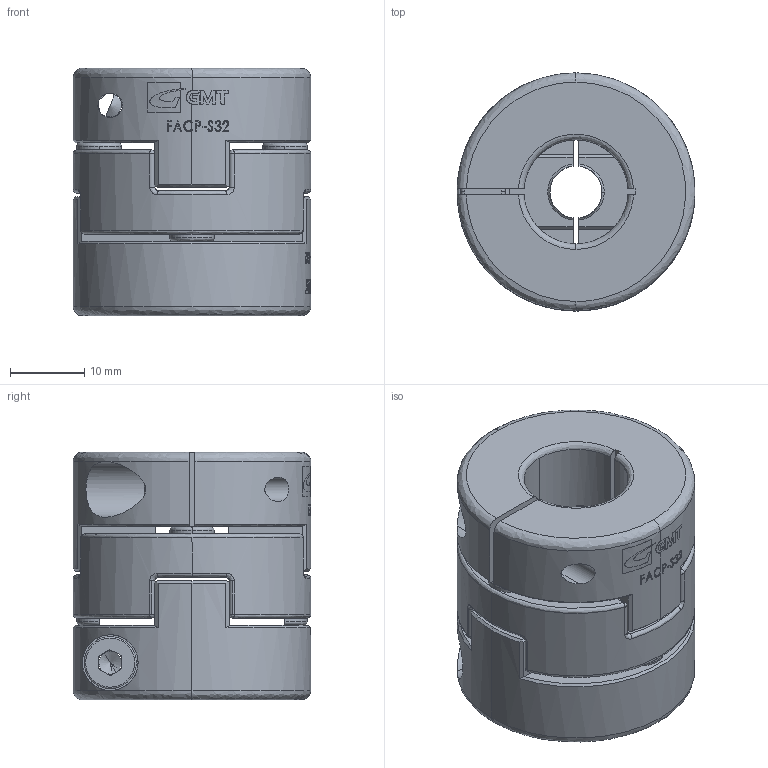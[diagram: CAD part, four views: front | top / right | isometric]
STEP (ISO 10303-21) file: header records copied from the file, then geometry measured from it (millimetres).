
FILE_DESCRIPTION (( 'STEP AP203' ), '1' );
FILE_NAME ('FACP-S32.STEP', '2008-04-07T00:56:15', ( '陳志豪' ), ( '高明鐵企業股份有限公司' ), 'SwSTEP 2.0', 'SolidWorks 2007', '' );
FILE_SCHEMA (( 'CONFIG_CONTROL_DESIGN' ));
Length unit declared in the file: millimetre
Products named in the file (1): FACP-S32
Bounding box: 32 x 32 x 33.3 mm (x, y, z)
Surface area: 9789.8 mm2 (no closed solid volume)
Topology: 0 solids, 9 shells, 322 faces, 1484 edges, 1106 vertices
Faces by surface type: plane 116, bspline 100, cylinder 91, cone 15
Entity records: 21886 total; most frequent: CARTESIAN_POINT 11756, ORIENTED_EDGE 2122, DIRECTION 1590, EDGE_CURVE 1471, VERTEX_POINT 1106, B_SPLINE_CURVE_WITH_KNOTS 578, AXIS2_PLACEMENT_3D 541, LINE 508
